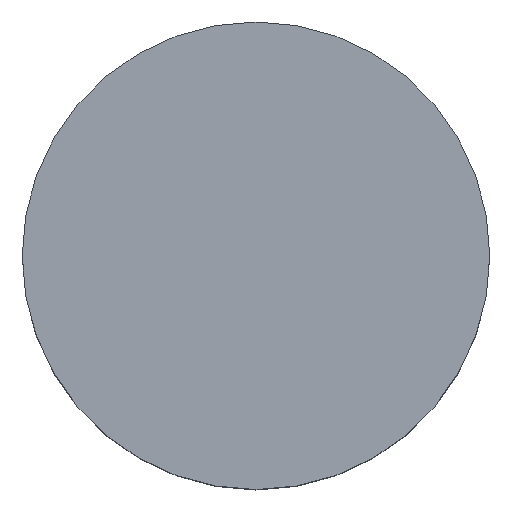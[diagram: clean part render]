
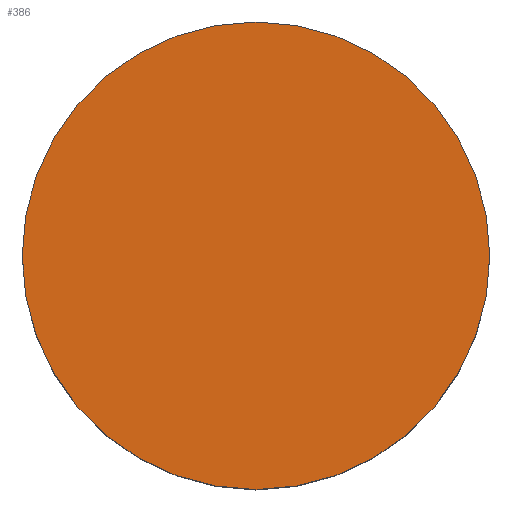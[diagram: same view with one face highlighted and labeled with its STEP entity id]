
A CAD part, top view. The second image highlights one B-rep face of the part: STEP entity #386.
In plain terms, the highlighted planar face has unit normal (0, 0, 1).
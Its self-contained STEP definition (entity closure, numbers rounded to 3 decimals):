
#211 = DIRECTION ( 'NONE',  ( 0., 0., 1. ) ) ;
#386 = ADVANCED_FACE ( 'NONE', ( #10084 ), #992, .T. ) ;
#992 = PLANE ( 'NONE',  #15946 ) ;
#3291 = CIRCLE ( 'NONE', #4212, 29.3 ) ;
#4212 = AXIS2_PLACEMENT_3D ( 'NONE', #10994, #211, #9582 ) ;
#5804 = DIRECTION ( 'NONE',  ( 0., 0., 1. ) ) ;
#6223 = VERTEX_POINT ( 'NONE', #16007 ) ;
#7158 = DIRECTION ( 'NONE',  ( 0., -1., 0. ) ) ;
#7615 = EDGE_LOOP ( 'NONE', ( #12926, #14658 ) ) ;
#7692 = AXIS2_PLACEMENT_3D ( 'NONE', #13817, #5804, #7158 ) ;
#8892 = CIRCLE ( 'NONE', #7692, 29.3 ) ;
#8944 = EDGE_CURVE ( 'NONE', #6223, #13572, #3291, .T. ) ;
#9438 = CARTESIAN_POINT ( 'NONE',  ( -29.3, 0., 32.2 ) ) ;
#9582 = DIRECTION ( 'NONE',  ( 0., -1., 0. ) ) ;
#10084 = FACE_OUTER_BOUND ( 'NONE', #7615, .T. ) ;
#10994 = CARTESIAN_POINT ( 'NONE',  ( 0., 0., 32.2 ) ) ;
#11683 = CARTESIAN_POINT ( 'NONE',  ( -29.3, 45.771, 32.2 ) ) ;
#11850 = EDGE_CURVE ( 'NONE', #13572, #6223, #8892, .T. ) ;
#12926 = ORIENTED_EDGE ( 'NONE', *, *, #11850, .T. ) ;
#13572 = VERTEX_POINT ( 'NONE', #9438 ) ;
#13817 = CARTESIAN_POINT ( 'NONE',  ( 0., 0., 32.2 ) ) ;
#14190 = DIRECTION ( 'NONE',  ( 0., 0., 1. ) ) ;
#14370 = DIRECTION ( 'NONE',  ( 0., -1., 0. ) ) ;
#14658 = ORIENTED_EDGE ( 'NONE', *, *, #8944, .T. ) ;
#15946 = AXIS2_PLACEMENT_3D ( 'NONE', #11683, #14190, #14370 ) ;
#16007 = CARTESIAN_POINT ( 'NONE',  ( 29.3, 0., 32.2 ) ) ;
